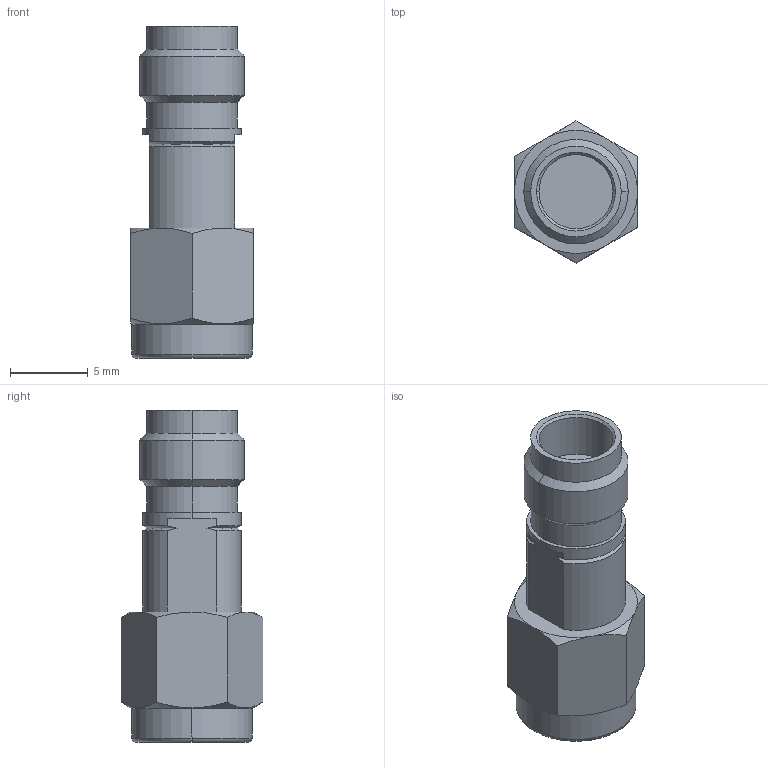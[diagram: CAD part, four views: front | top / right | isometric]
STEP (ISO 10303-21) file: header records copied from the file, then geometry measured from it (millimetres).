
FILE_DESCRIPTION (( 'STEP AP214' ), '1' );
FILE_NAME ('SF1116-6003.STEP', '2018-05-17T13:47:43', ( '' ), ( '' ), 'SwSTEP 2.0', 'SolidWorks 2016', '' );
FILE_SCHEMA (( 'AUTOMOTIVE_DESIGN' ));
Length unit declared in the file: inch
Products named in the file (1): SF1116-6003
Bounding box: 7.92 x 9.15 x 21.41 mm (x, y, z)
Volume: 693 mm3; surface area: 692.9 mm2
Topology: 1 solids, 1 shells, 63 faces, 146 edges, 90 vertices
Faces by surface type: cone 22, cylinder 20, plane 17, torus 4
Entity records: 2710 total; most frequent: CARTESIAN_POINT 432, DIRECTION 310, ORIENTED_EDGE 292, EDGE_CURVE 146, AXIS2_PLACEMENT_3D 128, VERTEX_POINT 90, EDGE_LOOP 68, DIMENSIONAL_EXPONENTS 65
